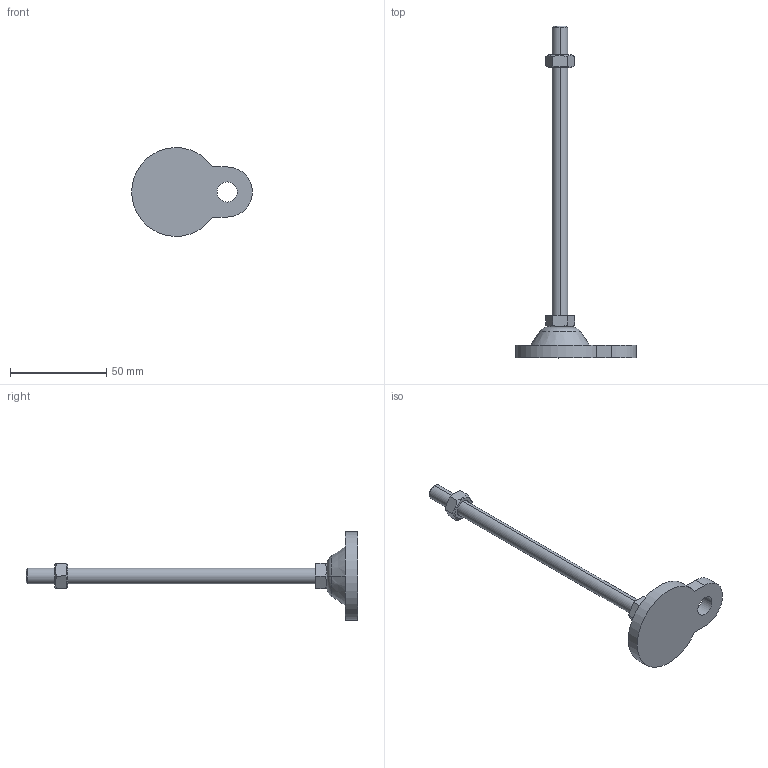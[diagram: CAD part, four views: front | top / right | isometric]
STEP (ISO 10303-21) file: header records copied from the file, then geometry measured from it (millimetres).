
FILE_DESCRIPTION (( 'STEP AP214' ), '1' );
FILE_NAME ('ARB46-M8-150.step', '2021-01-07T07:16:06', ( '' ), ( '' ), 'SwSTEP 2.0', 'SolidWorks 2019', '' );
FILE_SCHEMA (( 'AUTOMOTIVE_DESIGN' ));
Length unit declared in the file: millimetre
Products named in the file (1): ARB46-M8-150
Bounding box: 62.5 x 172 x 45.95 mm (x, y, z)
Volume: 26391.9 mm3; surface area: 10549.8 mm2
Topology: 3 solids, 3 shells, 46 faces, 100 edges, 62 vertices
Faces by surface type: plane 22, cone 14, cylinder 8, torus 2
Entity records: 1458 total; most frequent: CARTESIAN_POINT 395, DIRECTION 212, ORIENTED_EDGE 200, EDGE_CURVE 100, AXIS2_PLACEMENT_3D 83, VERTEX_POINT 62, EDGE_LOOP 52, LINE 46
